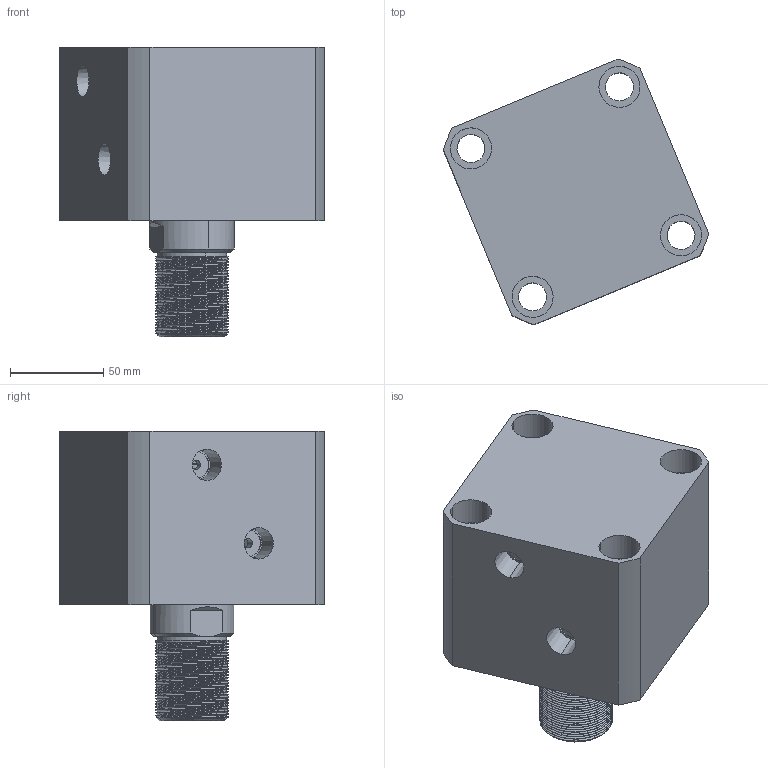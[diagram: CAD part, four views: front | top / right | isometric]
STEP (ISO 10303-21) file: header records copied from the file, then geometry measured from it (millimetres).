
FILE_DESCRIPTION (( 'STEP AP214' ), '1' );
FILE_NAME ('chtb-sd80x15n_asm.STEP', '2018-05-26T09:04:11', ( 'Windows' ), ( 'Microsoft' ), 'SwSTEP 2.0', 'SolidWorks 2015', '' );
FILE_SCHEMA (( 'AUTOMOTIVE_DESIGN' ));
Length unit declared in the file: millimetre
Products named in the file (4): CHTB-SD80X15NHSG; CHTB-SD80X15NBT; CHTB-SD80QG; chtb-sd80x15n_asm
Assembly tree (3 placements, depth 2):
  chtb-sd80x15n_asm
    CHTB-SD80QG
    CHTB-SD80X15NBT
    CHTB-SD80X15NHSG
Bounding box: 142.06 x 142.06 x 155 mm (x, y, z)
Volume: 1107691.8 mm3; surface area: 171625 mm2
Topology: 3 solids, 3 shells, 253 faces, 689 edges, 462 vertices
Faces by surface type: cylinder 159, plane 40, cone 20, torus 18, bspline 16
Entity records: 20271 total; most frequent: CARTESIAN_POINT 14293, ORIENTED_EDGE 1370, DIRECTION 1078, EDGE_CURVE 685, VERTEX_POINT 462, AXIS2_PLACEMENT_3D 439, EDGE_LOOP 291, FACE_OUTER_BOUND 253
